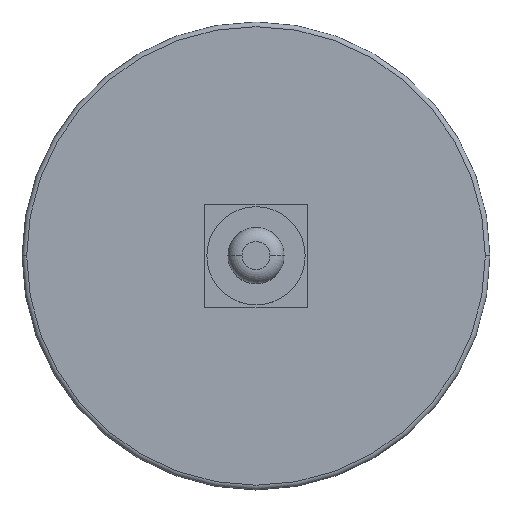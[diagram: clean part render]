
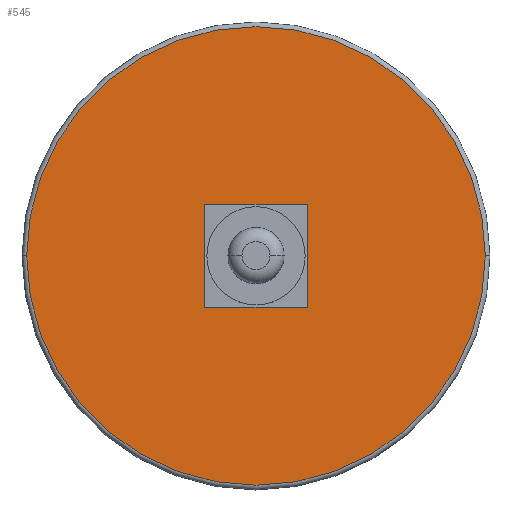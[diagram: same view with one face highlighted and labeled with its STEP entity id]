
A CAD part, top view. The second image highlights one B-rep face of the part: STEP entity #545.
In plain terms, the highlighted planar face has unit normal (0, 0, 1).
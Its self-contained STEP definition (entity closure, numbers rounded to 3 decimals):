
#5 = DIRECTION ( 'NONE',  ( 1., 0., 0. ) ) ;
#13 = CARTESIAN_POINT ( 'NONE',  ( 11., 11., 11.5 ) ) ;
#27 = EDGE_LOOP ( 'NONE', ( #392, #447, #162, #149 ) ) ;
#35 = AXIS2_PLACEMENT_3D ( 'NONE', #327, #371, #5 ) ;
#45 = DIRECTION ( 'NONE',  ( 1., 0., 0. ) ) ;
#52 = VERTEX_POINT ( 'NONE', #577 ) ;
#58 = DIRECTION ( 'NONE',  ( 0., 0., 1. ) ) ;
#70 = VERTEX_POINT ( 'NONE', #349 ) ;
#73 = VECTOR ( 'NONE', #185, 1000. ) ;
#87 = CARTESIAN_POINT ( 'NONE',  ( -49., 0., 11.5 ) ) ;
#91 = VERTEX_POINT ( 'NONE', #87 ) ;
#99 = EDGE_CURVE ( 'NONE', #52, #308, #183, .T. ) ;
#108 = DIRECTION ( 'NONE',  ( 0., 1., 0. ) ) ;
#133 = EDGE_CURVE ( 'NONE', #308, #70, #139, .T. ) ;
#136 = CIRCLE ( 'NONE', #35, 49. ) ;
#139 = LINE ( 'NONE', #408, #73 ) ;
#140 = PLANE ( 'NONE',  #252 ) ;
#149 = ORIENTED_EDGE ( 'NONE', *, *, #514, .F. ) ;
#150 = FACE_BOUND ( 'NONE', #27, .T. ) ;
#153 = DIRECTION ( 'NONE',  ( 1., 0., 0. ) ) ;
#161 = EDGE_CURVE ( 'NONE', #535, #91, #136, .T. ) ;
#162 = ORIENTED_EDGE ( 'NONE', *, *, #99, .F. ) ;
#183 = LINE ( 'NONE', #548, #390 ) ;
#185 = DIRECTION ( 'NONE',  ( 1., 0., 0. ) ) ;
#188 = FACE_OUTER_BOUND ( 'NONE', #287, .T. ) ;
#198 = CARTESIAN_POINT ( 'NONE',  ( -11., 11., 11.5 ) ) ;
#252 = AXIS2_PLACEMENT_3D ( 'NONE', #286, #567, #153 ) ;
#262 = VERTEX_POINT ( 'NONE', #568 ) ;
#286 = CARTESIAN_POINT ( 'NONE',  ( 0., 0., 11.5 ) ) ;
#287 = EDGE_LOOP ( 'NONE', ( #506, #492 ) ) ;
#289 = AXIS2_PLACEMENT_3D ( 'NONE', #338, #58, #45 ) ;
#308 = VERTEX_POINT ( 'NONE', #473 ) ;
#327 = CARTESIAN_POINT ( 'NONE',  ( 0., 0., 11.5 ) ) ;
#329 = CARTESIAN_POINT ( 'NONE',  ( 49., 0., 11.5 ) ) ;
#338 = CARTESIAN_POINT ( 'NONE',  ( 0., 0., 11.5 ) ) ;
#349 = CARTESIAN_POINT ( 'NONE',  ( 11., -11., 11.5 ) ) ;
#366 = EDGE_CURVE ( 'NONE', #70, #262, #430, .T. ) ;
#369 = DIRECTION ( 'NONE',  ( 0., -1., 0. ) ) ;
#371 = DIRECTION ( 'NONE',  ( 0., 0., 1. ) ) ;
#390 = VECTOR ( 'NONE', #369, 1000. ) ;
#392 = ORIENTED_EDGE ( 'NONE', *, *, #366, .F. ) ;
#408 = CARTESIAN_POINT ( 'NONE',  ( -11., -11., 11.5 ) ) ;
#425 = DIRECTION ( 'NONE',  ( -1., 0., 0. ) ) ;
#430 = LINE ( 'NONE', #13, #442 ) ;
#442 = VECTOR ( 'NONE', #108, 1000. ) ;
#447 = ORIENTED_EDGE ( 'NONE', *, *, #133, .F. ) ;
#470 = CIRCLE ( 'NONE', #289, 49. ) ;
#473 = CARTESIAN_POINT ( 'NONE',  ( -11., -11., 11.5 ) ) ;
#492 = ORIENTED_EDGE ( 'NONE', *, *, #530, .T. ) ;
#506 = ORIENTED_EDGE ( 'NONE', *, *, #161, .T. ) ;
#507 = LINE ( 'NONE', #198, #547 ) ;
#514 = EDGE_CURVE ( 'NONE', #262, #52, #507, .T. ) ;
#530 = EDGE_CURVE ( 'NONE', #91, #535, #470, .T. ) ;
#535 = VERTEX_POINT ( 'NONE', #329 ) ;
#545 = ADVANCED_FACE ( 'NONE', ( #188, #150 ), #140, .T. ) ;
#547 = VECTOR ( 'NONE', #425, 1000. ) ;
#548 = CARTESIAN_POINT ( 'NONE',  ( -11., 11., 11.5 ) ) ;
#567 = DIRECTION ( 'NONE',  ( 0., 0., 1. ) ) ;
#568 = CARTESIAN_POINT ( 'NONE',  ( 11., 11., 11.5 ) ) ;
#577 = CARTESIAN_POINT ( 'NONE',  ( -11., 11., 11.5 ) ) ;
